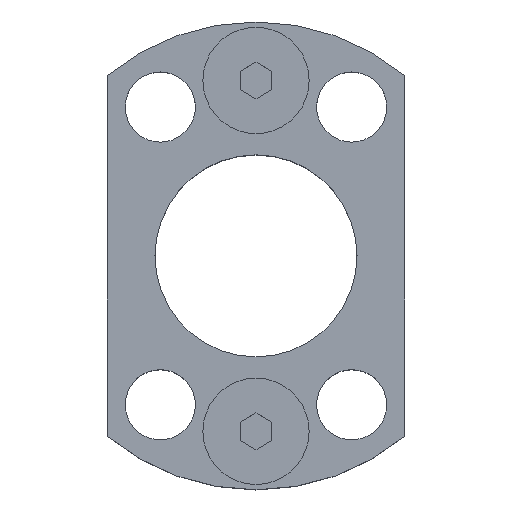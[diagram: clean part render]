
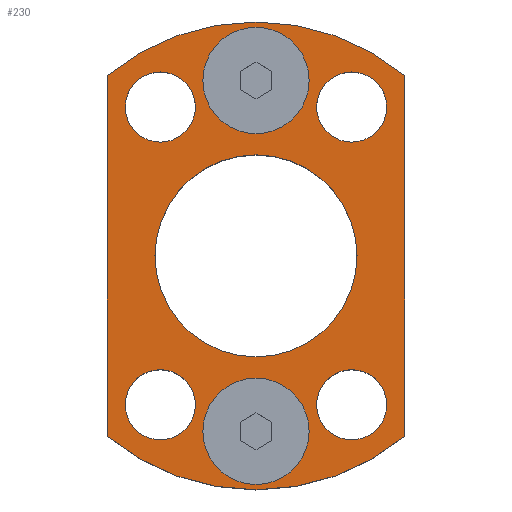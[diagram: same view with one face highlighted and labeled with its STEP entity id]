
A CAD part, top view. The second image highlights one B-rep face of the part: STEP entity #230.
In plain terms, the highlighted planar face has unit normal (0, 0, 1).
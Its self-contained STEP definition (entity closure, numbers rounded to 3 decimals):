
#143=FACE_BOUND('',#445,.T.);
#144=FACE_BOUND('',#446,.T.);
#145=FACE_BOUND('',#447,.T.);
#146=FACE_BOUND('',#448,.T.);
#147=FACE_BOUND('',#449,.T.);
#148=FACE_BOUND('',#450,.T.);
#149=FACE_BOUND('',#451,.T.);
#150=FACE_BOUND('',#452,.T.);
#164=PLANE('',#1603);
#230=ADVANCED_FACE('',(#143,#144,#145,#146,#147,#148,#149,#150),#164,.T.);
#445=EDGE_LOOP('',(#809,#810,#811,#812));
#446=EDGE_LOOP('',(#813,#814));
#447=EDGE_LOOP('',(#815,#816));
#448=EDGE_LOOP('',(#817,#818));
#449=EDGE_LOOP('',(#819,#820));
#450=EDGE_LOOP('',(#821,#822));
#451=EDGE_LOOP('',(#823,#824));
#452=EDGE_LOOP('',(#825,#826));
#524=CIRCLE('',#1540,22.);
#526=CIRCLE('',#1544,22.);
#528=CIRCLE('',#1548,3.3);
#530=CIRCLE('',#1551,3.3);
#532=CIRCLE('',#1554,3.3);
#534=CIRCLE('',#1557,3.3);
#536=CIRCLE('',#1560,3.3);
#538=CIRCLE('',#1563,3.3);
#540=CIRCLE('',#1566,3.3);
#542=CIRCLE('',#1569,3.3);
#547=CIRCLE('',#1577,5.);
#548=CIRCLE('',#1579,5.);
#550=CIRCLE('',#1582,9.5);
#552=CIRCLE('',#1585,9.5);
#561=CIRCLE('',#1601,5.);
#562=CIRCLE('',#1602,5.);
#809=ORIENTED_EDGE('',*,*,#1149,.T.);
#810=ORIENTED_EDGE('',*,*,#1158,.T.);
#811=ORIENTED_EDGE('',*,*,#1155,.T.);
#812=ORIENTED_EDGE('',*,*,#1152,.T.);
#813=ORIENTED_EDGE('',*,*,#1211,.F.);
#814=ORIENTED_EDGE('',*,*,#1212,.F.);
#815=ORIENTED_EDGE('',*,*,#1192,.F.);
#816=ORIENTED_EDGE('',*,*,#1190,.F.);
#817=ORIENTED_EDGE('',*,*,#1161,.T.);
#818=ORIENTED_EDGE('',*,*,#1164,.T.);
#819=ORIENTED_EDGE('',*,*,#1167,.T.);
#820=ORIENTED_EDGE('',*,*,#1170,.T.);
#821=ORIENTED_EDGE('',*,*,#1173,.T.);
#822=ORIENTED_EDGE('',*,*,#1176,.T.);
#823=ORIENTED_EDGE('',*,*,#1179,.T.);
#824=ORIENTED_EDGE('',*,*,#1182,.T.);
#825=ORIENTED_EDGE('',*,*,#1195,.T.);
#826=ORIENTED_EDGE('',*,*,#1198,.T.);
#1005=VERTEX_POINT('',#2226);
#1006=VERTEX_POINT('',#2228);
#1008=VERTEX_POINT('',#2234);
#1010=VERTEX_POINT('',#2240);
#1013=VERTEX_POINT('',#2250);
#1014=VERTEX_POINT('',#2252);
#1017=VERTEX_POINT('',#2262);
#1018=VERTEX_POINT('',#2264);
#1021=VERTEX_POINT('',#2274);
#1022=VERTEX_POINT('',#2276);
#1025=VERTEX_POINT('',#2286);
#1026=VERTEX_POINT('',#2288);
#1031=VERTEX_POINT('',#2307);
#1032=VERTEX_POINT('',#2309);
#1035=VERTEX_POINT('',#2318);
#1036=VERTEX_POINT('',#2320);
#1045=VERTEX_POINT('',#2353);
#1046=VERTEX_POINT('',#2354);
#1149=EDGE_CURVE('',#1006,#1005,#524,.T.);
#1152=EDGE_CURVE('',#1008,#1006,#1306,.T.);
#1155=EDGE_CURVE('',#1010,#1008,#526,.T.);
#1158=EDGE_CURVE('',#1005,#1010,#1310,.T.);
#1161=EDGE_CURVE('',#1014,#1013,#528,.T.);
#1164=EDGE_CURVE('',#1013,#1014,#530,.T.);
#1167=EDGE_CURVE('',#1018,#1017,#532,.T.);
#1170=EDGE_CURVE('',#1017,#1018,#534,.T.);
#1173=EDGE_CURVE('',#1022,#1021,#536,.T.);
#1176=EDGE_CURVE('',#1021,#1022,#538,.T.);
#1179=EDGE_CURVE('',#1026,#1025,#540,.T.);
#1182=EDGE_CURVE('',#1025,#1026,#542,.T.);
#1190=EDGE_CURVE('',#1031,#1032,#547,.T.);
#1192=EDGE_CURVE('',#1032,#1031,#548,.T.);
#1195=EDGE_CURVE('',#1036,#1035,#550,.T.);
#1198=EDGE_CURVE('',#1035,#1036,#552,.T.);
#1211=EDGE_CURVE('',#1045,#1046,#561,.T.);
#1212=EDGE_CURVE('',#1046,#1045,#562,.T.);
#1306=LINE('',#2233,#1406);
#1310=LINE('',#2244,#1410);
#1406=VECTOR('',#1805,1.);
#1410=VECTOR('',#1817,1.);
#1540=AXIS2_PLACEMENT_3D('',#2227,#1799,#1800);
#1544=AXIS2_PLACEMENT_3D('',#2239,#1811,#1812);
#1548=AXIS2_PLACEMENT_3D('',#2251,#1823,#1824);
#1551=AXIS2_PLACEMENT_3D('',#2256,#1830,#1831);
#1554=AXIS2_PLACEMENT_3D('',#2263,#1837,#1838);
#1557=AXIS2_PLACEMENT_3D('',#2268,#1844,#1845);
#1560=AXIS2_PLACEMENT_3D('',#2275,#1851,#1852);
#1563=AXIS2_PLACEMENT_3D('',#2280,#1858,#1859);
#1566=AXIS2_PLACEMENT_3D('',#2287,#1865,#1866);
#1569=AXIS2_PLACEMENT_3D('',#2292,#1872,#1873);
#1577=AXIS2_PLACEMENT_3D('',#2308,#1891,#1892);
#1579=AXIS2_PLACEMENT_3D('',#2312,#1896,#1897);
#1582=AXIS2_PLACEMENT_3D('',#2319,#1903,#1904);
#1585=AXIS2_PLACEMENT_3D('',#2324,#1910,#1911);
#1601=AXIS2_PLACEMENT_3D('',#2352,#1946,#1947);
#1602=AXIS2_PLACEMENT_3D('',#2355,#1948,#1949);
#1603=AXIS2_PLACEMENT_3D('',#2356,#1950,#1951);
#1799=DIRECTION('',(0.,0.,1.));
#1800=DIRECTION('',(0.776,0.631,0.));
#1805=DIRECTION('',(0.,1.,0.));
#1811=DIRECTION('',(0.,0.,1.));
#1812=DIRECTION('',(-0.776,-0.631,0.));
#1817=DIRECTION('',(0.,-1.,0.));
#1823=DIRECTION('',(0.,0.,-1.));
#1824=DIRECTION('',(-1.,0.,0.));
#1830=DIRECTION('',(0.,0.,-1.));
#1831=DIRECTION('',(1.,0.,0.));
#1837=DIRECTION('',(0.,0.,-1.));
#1838=DIRECTION('',(-1.,0.,0.));
#1844=DIRECTION('',(0.,0.,-1.));
#1845=DIRECTION('',(1.,0.,0.));
#1851=DIRECTION('',(0.,0.,-1.));
#1852=DIRECTION('',(-1.,0.,0.));
#1858=DIRECTION('',(0.,0.,-1.));
#1859=DIRECTION('',(1.,0.,0.));
#1865=DIRECTION('',(0.,0.,-1.));
#1866=DIRECTION('',(-1.,0.,0.));
#1872=DIRECTION('',(0.,0.,-1.));
#1873=DIRECTION('',(1.,0.,0.));
#1891=DIRECTION('',(0.,0.,1.));
#1892=DIRECTION('',(1.,0.,0.));
#1896=DIRECTION('',(0.,0.,1.));
#1897=DIRECTION('',(-1.,0.,0.));
#1903=DIRECTION('',(0.,0.,-1.));
#1904=DIRECTION('',(-1.,0.,0.));
#1910=DIRECTION('',(0.,0.,-1.));
#1911=DIRECTION('',(1.,0.,0.));
#1946=DIRECTION('',(0.,0.,1.));
#1947=DIRECTION('',(-1.,0.,0.));
#1948=DIRECTION('',(0.,0.,1.));
#1949=DIRECTION('',(1.,0.,0.));
#1950=DIRECTION('',(0.,0.,1.));
#1951=DIRECTION('',(0.771,-0.636,0.));
#2226=CARTESIAN_POINT('',(-14.,16.971,11.));
#2227=CARTESIAN_POINT('',(0.,0.,11.));
#2228=CARTESIAN_POINT('',(14.,16.971,11.));
#2233=CARTESIAN_POINT('',(14.,16.971,11.));
#2234=CARTESIAN_POINT('',(14.,-16.971,11.));
#2239=CARTESIAN_POINT('',(0.,0.,11.));
#2240=CARTESIAN_POINT('',(-14.,-16.971,11.));
#2244=CARTESIAN_POINT('',(-14.,16.971,11.));
#2250=CARTESIAN_POINT('',(9.,10.7,11.));
#2251=CARTESIAN_POINT('',(9.,14.,11.));
#2252=CARTESIAN_POINT('',(9.,17.3,11.));
#2256=CARTESIAN_POINT('',(9.,14.,11.));
#2262=CARTESIAN_POINT('',(-9.,10.7,11.));
#2263=CARTESIAN_POINT('',(-9.,14.,11.));
#2264=CARTESIAN_POINT('',(-9.,17.3,11.));
#2268=CARTESIAN_POINT('',(-9.,14.,11.));
#2274=CARTESIAN_POINT('',(9.,-17.3,11.));
#2275=CARTESIAN_POINT('',(9.,-14.,11.));
#2276=CARTESIAN_POINT('',(9.,-10.7,11.));
#2280=CARTESIAN_POINT('',(9.,-14.,11.));
#2286=CARTESIAN_POINT('',(-9.,-17.3,11.));
#2287=CARTESIAN_POINT('',(-9.,-14.,11.));
#2288=CARTESIAN_POINT('',(-9.,-10.7,11.));
#2292=CARTESIAN_POINT('',(-9.,-14.,11.));
#2307=CARTESIAN_POINT('',(0.,-11.5,11.));
#2308=CARTESIAN_POINT('',(0.,-16.5,11.));
#2309=CARTESIAN_POINT('',(0.,-21.5,11.));
#2312=CARTESIAN_POINT('',(0.,-16.5,11.));
#2318=CARTESIAN_POINT('',(0.,-9.5,11.));
#2319=CARTESIAN_POINT('',(0.,0.,11.));
#2320=CARTESIAN_POINT('',(0.,9.5,11.));
#2324=CARTESIAN_POINT('',(0.,0.,11.));
#2352=CARTESIAN_POINT('',(0.,16.5,11.));
#2353=CARTESIAN_POINT('',(0.,11.5,11.));
#2354=CARTESIAN_POINT('',(0.,21.5,11.));
#2355=CARTESIAN_POINT('',(0.,16.5,11.));
#2356=CARTESIAN_POINT('',(14.,16.971,11.));
